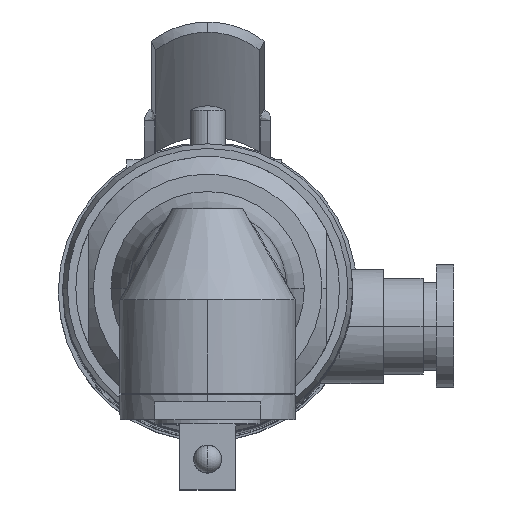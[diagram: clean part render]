
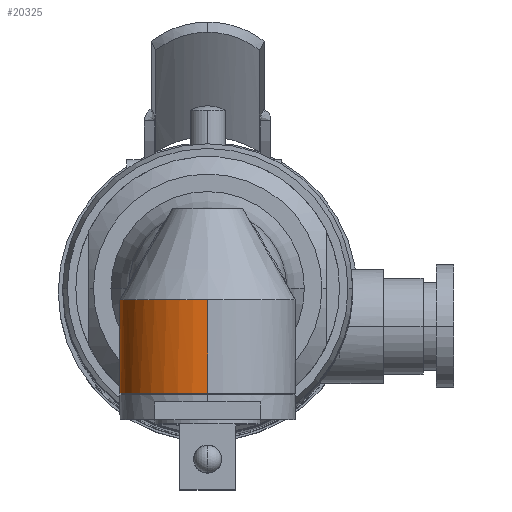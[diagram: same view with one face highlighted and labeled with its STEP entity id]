
A CAD part, top view. The second image highlights one B-rep face of the part: STEP entity #20325.
In plain terms, the highlighted cylindrical face has radius 10 mm (diameter 20 mm), a partial arc.
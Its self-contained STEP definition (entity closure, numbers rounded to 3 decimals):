
#4089 = CARTESIAN_POINT ( 'NONE',  ( 0., -12., 10. ) ) ;
#8697 = CARTESIAN_POINT ( 'NONE',  ( -9.275, -1.392, -3.737 ) ) ;
#10622 = LINE ( 'NONE', #10689, #10688 ) ;
#10687 = DIRECTION ( 'NONE',  ( 0., -1., 0. ) ) ;
#10688 = VECTOR ( 'NONE', #10687, 1000. ) ;
#10689 = CARTESIAN_POINT ( 'NONE',  ( 0., 9., 10. ) ) ;
#10980 = CARTESIAN_POINT ( 'NONE',  ( 0., -1.392, 10. ) ) ;
#11097 = CARTESIAN_POINT ( 'NONE',  ( -8.977, -0.644, -4.406 ) ) ;
#11380 = DIRECTION ( 'NONE',  ( 0., 0., 1. ) ) ;
#11381 = DIRECTION ( 'NONE',  ( 0., 1., 0. ) ) ;
#11382 = CARTESIAN_POINT ( 'NONE',  ( 0., -12., 0. ) ) ;
#11383 = AXIS2_PLACEMENT_3D ( 'NONE', #11382, #11381, #11380 ) ;
#11388 = CIRCLE ( 'NONE', #11383, 10. ) ;
#11396 = DIRECTION ( 'NONE',  ( 0., 0., -1. ) ) ;
#11397 = DIRECTION ( 'NONE',  ( 0., -1., 0. ) ) ;
#11398 = CARTESIAN_POINT ( 'NONE',  ( 0., 9., 0. ) ) ;
#11399 = AXIS2_PLACEMENT_3D ( 'NONE', #11398, #11397, #11396 ) ;
#11400 = CYLINDRICAL_SURFACE ( 'NONE', #11399, 10. ) ;
#11401 = FACE_OUTER_BOUND ( 'NONE', #20308, .T. ) ;
#11402 = DIRECTION ( 'NONE',  ( 0., 0., -1. ) ) ;
#11403 = DIRECTION ( 'NONE',  ( 0., -1., 0. ) ) ;
#11404 = CARTESIAN_POINT ( 'NONE',  ( 0., -1.392, 0. ) ) ;
#11405 = AXIS2_PLACEMENT_3D ( 'NONE', #11404, #11403, #11402 ) ;
#11406 = CIRCLE ( 'NONE', #11405, 10. ) ;
#11448 = CARTESIAN_POINT ( 'NONE',  ( 0., -9., -10. ) ) ;
#11464 = CARTESIAN_POINT ( 'NONE',  ( 0., -9., -10. ) ) ;
#11466 = B_SPLINE_CURVE_WITH_KNOTS ( 'NONE', 3,
 ( #11464, #11510, #11509, #11508, #11507, #11506, #11505, #11504, #11503, #11502, #11501, #11500, #11499, #11498, #11496, #11495, #11494, #11493, #11492, #11491, #11490, #11489, #11488, #11487, #11485, #11484, #11483, #11482 ),
 .UNSPECIFIED., .F., .F.,
 ( 4, 2, 2, 2, 2, 2, 2, 2, 2, 2, 2, 2, 2, 4 ),
 ( 0.031, 0.032, 0.033, 0.034, 0.035, 0.036, 0.038, 0.039, 0.04, 0.042, 0.043, 0.044, 0.045, 0.045 ),
 .UNSPECIFIED. ) ;
#11472 = DIRECTION ( 'NONE',  ( 0., -1., 0. ) ) ;
#11473 = VECTOR ( 'NONE', #11472, 1000. ) ;
#11474 = CARTESIAN_POINT ( 'NONE',  ( 0., 9., -10. ) ) ;
#11475 = LINE ( 'NONE', #11474, #11473 ) ;
#11482 = CARTESIAN_POINT ( 'NONE',  ( -8.977, -0.644, -4.406 ) ) ;
#11483 = CARTESIAN_POINT ( 'NONE',  ( -8.955, -0.948, -4.451 ) ) ;
#11484 = CARTESIAN_POINT ( 'NONE',  ( -8.918, -1.248, -4.526 ) ) ;
#11485 = CARTESIAN_POINT ( 'NONE',  ( -8.817, -1.828, -4.719 ) ) ;
#11487 = CARTESIAN_POINT ( 'NONE',  ( -8.754, -2.107, -4.836 ) ) ;
#11488 = CARTESIAN_POINT ( 'NONE',  ( -8.606, -2.648, -5.094 ) ) ;
#11489 = CARTESIAN_POINT ( 'NONE',  ( -8.521, -2.911, -5.237 ) ) ;
#11490 = CARTESIAN_POINT ( 'NONE',  ( -8.33, -3.418, -5.535 ) ) ;
#11491 = CARTESIAN_POINT ( 'NONE',  ( -8.226, -3.662, -5.69 ) ) ;
#11492 = CARTESIAN_POINT ( 'NONE',  ( -7.884, -4.372, -6.164 ) ) ;
#11493 = CARTESIAN_POINT ( 'NONE',  ( -7.62, -4.818, -6.492 ) ) ;
#11494 = CARTESIAN_POINT ( 'NONE',  ( -7.163, -5.455, -6.981 ) ) ;
#11495 = CARTESIAN_POINT ( 'NONE',  ( -7., -5.663, -7.145 ) ) ;
#11496 = CARTESIAN_POINT ( 'NONE',  ( -6.657, -6.062, -7.466 ) ) ;
#11498 = CARTESIAN_POINT ( 'NONE',  ( -6.477, -6.255, -7.623 ) ) ;
#11499 = CARTESIAN_POINT ( 'NONE',  ( -5.907, -6.81, -8.083 ) ) ;
#11500 = CARTESIAN_POINT ( 'NONE',  ( -5.491, -7.152, -8.374 ) ) ;
#11501 = CARTESIAN_POINT ( 'NONE',  ( -4.8, -7.618, -8.777 ) ) ;
#11502 = CARTESIAN_POINT ( 'NONE',  ( -4.557, -7.766, -8.905 ) ) ;
#11503 = CARTESIAN_POINT ( 'NONE',  ( -4.058, -8.038, -9.144 ) ) ;
#11504 = CARTESIAN_POINT ( 'NONE',  ( -3.799, -8.164, -9.255 ) ) ;
#11505 = CARTESIAN_POINT ( 'NONE',  ( -2.997, -8.506, -9.557 ) ) ;
#11506 = CARTESIAN_POINT ( 'NONE',  ( -2.42, -8.69, -9.722 ) ) ;
#11507 = CARTESIAN_POINT ( 'NONE',  ( -1.532, -8.874, -9.887 ) ) ;
#11508 = CARTESIAN_POINT ( 'NONE',  ( -1.231, -8.921, -9.929 ) ) ;
#11509 = CARTESIAN_POINT ( 'NONE',  ( -0.62, -8.984, -9.985 ) ) ;
#11510 = CARTESIAN_POINT ( 'NONE',  ( -0.308, -9., -10. ) ) ;
#11695 = CARTESIAN_POINT ( 'NONE',  ( -8.977, -0.644, -4.406 ) ) ;
#11696 = CARTESIAN_POINT ( 'NONE',  ( -8.97, -0.747, -4.421 ) ) ;
#11697 = CARTESIAN_POINT ( 'NONE',  ( -8.968, -0.852, -4.424 ) ) ;
#11698 = CARTESIAN_POINT ( 'NONE',  ( -8.988, -1.054, -4.385 ) ) ;
#11699 = CARTESIAN_POINT ( 'NONE',  ( -9.01, -1.15, -4.338 ) ) ;
#11700 = CARTESIAN_POINT ( 'NONE',  ( -9.075, -1.289, -4.201 ) ) ;
#11701 = CARTESIAN_POINT ( 'NONE',  ( -9.116, -1.333, -4.113 ) ) ;
#11702 = CARTESIAN_POINT ( 'NONE',  ( -9.197, -1.384, -3.928 ) ) ;
#11703 = CARTESIAN_POINT ( 'NONE',  ( -9.237, -1.392, -3.833 ) ) ;
#11704 = CARTESIAN_POINT ( 'NONE',  ( -9.275, -1.392, -3.737 ) ) ;
#11716 = B_SPLINE_CURVE_WITH_KNOTS ( 'NONE', 3,
 ( #11704, #11703, #11702, #11701, #11700, #11699, #11698, #11697, #11696, #11695 ),
 .UNSPECIFIED., .F., .F.,
 ( 4, 2, 2, 2, 4 ),
 ( 0., 0., 0.001, 0.001, 0.001 ),
 .UNSPECIFIED. ) ;
#11986 = CARTESIAN_POINT ( 'NONE',  ( 0., -12., -10. ) ) ;
#16546 = VERTEX_POINT ( 'NONE', #4089 ) ;
#18174 = VERTEX_POINT ( 'NONE', #8697 ) ;
#18979 = EDGE_CURVE ( 'NONE', #19064, #16546, #10622, .T. ) ;
#19064 = VERTEX_POINT ( 'NONE', #10980 ) ;
#19104 = VERTEX_POINT ( 'NONE', #11097 ) ;
#19138 = ORIENTED_EDGE ( 'NONE', *, *, #20605, .T. ) ;
#20243 = ORIENTED_EDGE ( 'NONE', *, *, #18979, .F. ) ;
#20308 = EDGE_LOOP ( 'NONE', ( #20243, #20317, #21129, #20694, #19138, #20567 ) ) ;
#20317 = ORIENTED_EDGE ( 'NONE', *, *, #20322, .T. ) ;
#20322 = EDGE_CURVE ( 'NONE', #19064, #18174, #11406, .T. ) ;
#20325 = ADVANCED_FACE ( 'NONE', ( #11401 ), #11400, .T. ) ;
#20465 = EDGE_CURVE ( 'NONE', #21459, #16546, #11388, .T. ) ;
#20507 = VERTEX_POINT ( 'NONE', #11448 ) ;
#20567 = ORIENTED_EDGE ( 'NONE', *, *, #20465, .T. ) ;
#20605 = EDGE_CURVE ( 'NONE', #20507, #21459, #11475, .T. ) ;
#20694 = ORIENTED_EDGE ( 'NONE', *, *, #20696, .F. ) ;
#20696 = EDGE_CURVE ( 'NONE', #20507, #19104, #11466, .T. ) ;
#21129 = ORIENTED_EDGE ( 'NONE', *, *, #21181, .T. ) ;
#21181 = EDGE_CURVE ( 'NONE', #18174, #19104, #11716, .T. ) ;
#21459 = VERTEX_POINT ( 'NONE', #11986 ) ;
